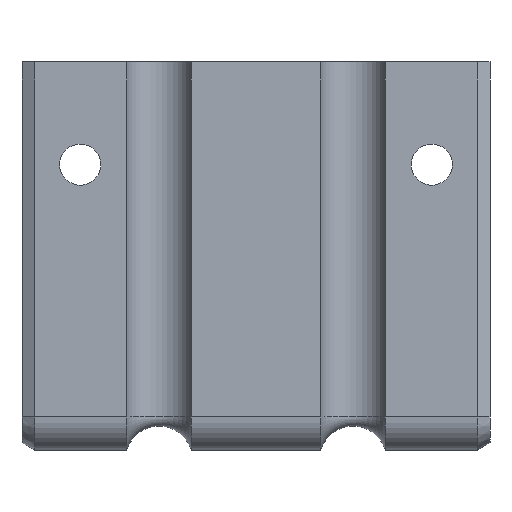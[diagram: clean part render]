
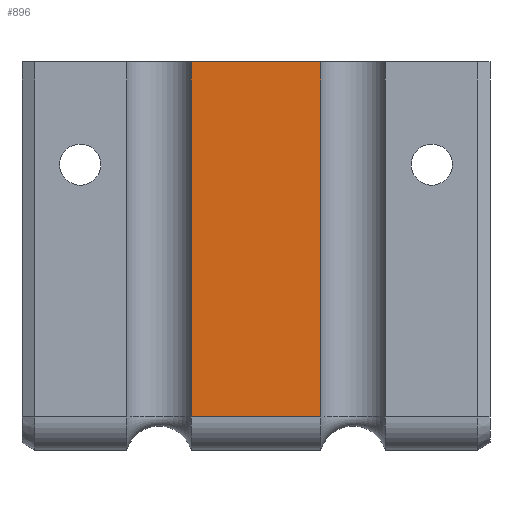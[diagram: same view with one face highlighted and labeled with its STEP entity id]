
A CAD part, front view. The second image highlights one B-rep face of the part: STEP entity #896.
In plain terms, the highlighted planar face has unit normal (0, -1, 0).
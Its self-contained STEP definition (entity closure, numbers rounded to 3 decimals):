
#57=PLANE('',#991);
#110=FACE_OUTER_BOUND('',#172,.T.);
#172=EDGE_LOOP('',(#788,#789,#790,#791));
#244=LINE('',#1476,#328);
#257=LINE('',#1511,#341);
#258=LINE('',#1515,#342);
#259=LINE('',#1516,#343);
#328=VECTOR('',#1214,1.);
#341=VECTOR('',#1255,1.);
#342=VECTOR('',#1260,1.);
#343=VECTOR('',#1261,1.);
#445=VERTEX_POINT('',#1470);
#446=VERTEX_POINT('',#1474);
#454=VERTEX_POINT('',#1510);
#455=VERTEX_POINT('',#1514);
#558=EDGE_CURVE('',#445,#446,#244,.T.);
#575=EDGE_CURVE('',#454,#445,#257,.T.);
#577=EDGE_CURVE('',#455,#446,#258,.T.);
#578=EDGE_CURVE('',#454,#455,#259,.T.);
#788=ORIENTED_EDGE('',*,*,#558,.T.);
#789=ORIENTED_EDGE('',*,*,#577,.F.);
#790=ORIENTED_EDGE('',*,*,#578,.F.);
#791=ORIENTED_EDGE('',*,*,#575,.T.);
#896=ADVANCED_FACE('',(#110),#57,.T.);
#991=AXIS2_PLACEMENT_3D('',#1513,#1258,#1259);
#1214=DIRECTION('',(1.,0.,0.));
#1255=DIRECTION('',(0.,0.,-1.));
#1258=DIRECTION('center_axis',(0.,-1.,0.));
#1259=DIRECTION('ref_axis',(0.,0.,-1.));
#1260=DIRECTION('',(0.,0.,-1.));
#1261=DIRECTION('',(1.,0.,0.));
#1470=CARTESIAN_POINT('',(-28.413,0.,14.5));
#1474=CARTESIAN_POINT('',(28.413,0.,14.5));
#1476=CARTESIAN_POINT('',(-28.413,0.,14.5));
#1510=CARTESIAN_POINT('',(-28.413,0.,170.));
#1511=CARTESIAN_POINT('',(-28.413,0.,170.));
#1513=CARTESIAN_POINT('Origin',(-28.413,0.,
170.));
#1514=CARTESIAN_POINT('',(28.413,0.,170.));
#1515=CARTESIAN_POINT('',(28.413,0.,170.));
#1516=CARTESIAN_POINT('',(-28.413,0.,170.));
